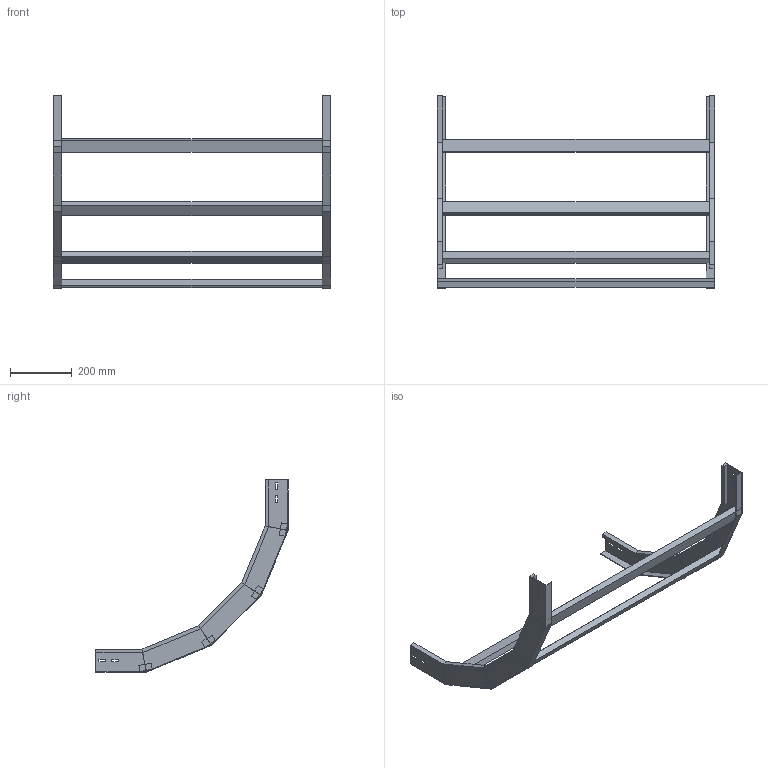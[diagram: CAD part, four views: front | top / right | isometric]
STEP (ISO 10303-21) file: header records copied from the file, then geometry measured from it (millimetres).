
FILE_DESCRIPTION (( 'STEP AP214' ), '1' );
FILE_NAME ('A2X30B5C900XX.step', '2025-03-20T10:25:04', ( '' ), ( '' ), 'SwSTEP 2.0', 'SolidWorks 2023', '' );
FILE_SCHEMA (( 'AUTOMOTIVE_DESIGN' ));
Length unit declared in the file: millimetre
Products named in the file (3): A2X30B5C900XX; TRAVERSINO_900; LONGH.SALITA_90°_H75_R500
Assembly tree (6 placements, depth 2):
  A2X30B5C900XX
    LONGH.SALITA_90°_H75_R500  x2
    TRAVERSINO_900  x4
Bounding box: 900 x 624.12 x 624.12 mm (x, y, z)
Volume: 3635170.9 mm3; surface area: 893123.8 mm2
Topology: 6 solids, 6 shells, 140 faces, 320 edges, 192 vertices
Faces by surface type: plane 140
Entity records: 1872 total; most frequent: CARTESIAN_POINT 309, ORIENTED_EDGE 296, DIRECTION 294, VECTOR 148, EDGE_CURVE 148, LINE 148, VERTEX_POINT 88, AXIS2_PLACEMENT_3D 73
